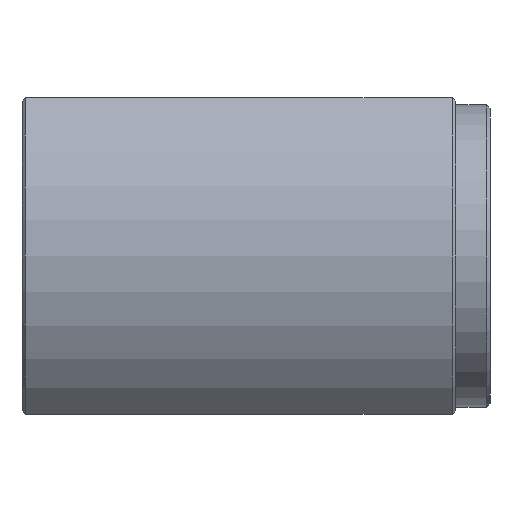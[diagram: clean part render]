
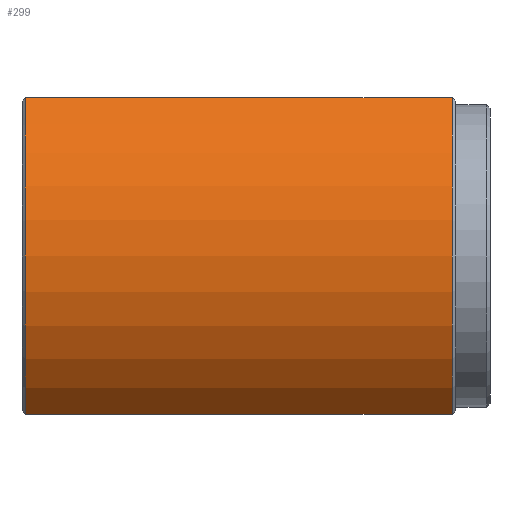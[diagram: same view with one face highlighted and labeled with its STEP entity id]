
A CAD part, front view. The second image highlights one B-rep face of the part: STEP entity #299.
In plain terms, the highlighted cylindrical face has radius 31 mm (diameter 62 mm), a partial arc.
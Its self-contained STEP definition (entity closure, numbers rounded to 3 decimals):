
#128=CARTESIAN_POINT('',(62.5,-20.785,23.));
#129=VERTEX_POINT('',#128);
#137=CARTESIAN_POINT('',(62.5,-20.785,-23.));
#138=VERTEX_POINT('',#137);
#139=CARTESIAN_POINT('',(62.5,0.0,0.0));
#140=DIRECTION('',(1.0,0.0,0.0));
#141=DIRECTION('',(0.0,-1.0,0.0));
#142=AXIS2_PLACEMENT_3D('',#139,#140,#141);
#143=CIRCLE('',#142,31.0);
#144=EDGE_CURVE('',#129,#138,#143,.T.);
#250=CARTESIAN_POINT('',(0.5,-20.785,-23.));
#251=VERTEX_POINT('',#250);
#252=CARTESIAN_POINT('',(0.5,-20.785,-23.));
#253=DIRECTION('',(1.0,0.0,0.0));
#254=VECTOR('',#253,62.);
#255=LINE('',#252,#254);
#256=EDGE_CURVE('',#251,#138,#255,.T.);
#275=CARTESIAN_POINT('',(0.0,0.0,0.0));
#276=DIRECTION('',(1.0,0.0,0.0));
#277=DIRECTION('',(0.0,1.0,0.0));
#278=AXIS2_PLACEMENT_3D('',#275,#276,#277);
#279=CYLINDRICAL_SURFACE('',#278,31.0);
#280=ORIENTED_EDGE('',*,*,#144,.F.);
#281=CARTESIAN_POINT('',(0.5,-20.785,23.));
#282=VERTEX_POINT('',#281);
#283=CARTESIAN_POINT('',(0.5,-20.785,23.));
#284=DIRECTION('',(1.0,0.0,0.0));
#285=VECTOR('',#284,62.);
#286=LINE('',#283,#285);
#287=EDGE_CURVE('',#282,#129,#286,.T.);
#288=ORIENTED_EDGE('',*,*,#287,.F.);
#289=CARTESIAN_POINT('',(0.5,0.0,0.0));
#290=DIRECTION('',(-1.0,0.0,0.0));
#291=DIRECTION('',(0.0,-1.0,0.0));
#292=AXIS2_PLACEMENT_3D('',#289,#290,#291);
#293=CIRCLE('',#292,31.0);
#294=EDGE_CURVE('',#251,#282,#293,.T.);
#295=ORIENTED_EDGE('',*,*,#294,.F.);
#296=ORIENTED_EDGE('',*,*,#256,.T.);
#297=EDGE_LOOP('',(#280,#288,#295,#296));
#298=FACE_OUTER_BOUND('',#297,.T.);
#299=ADVANCED_FACE('',(#298),#279,.T.);
